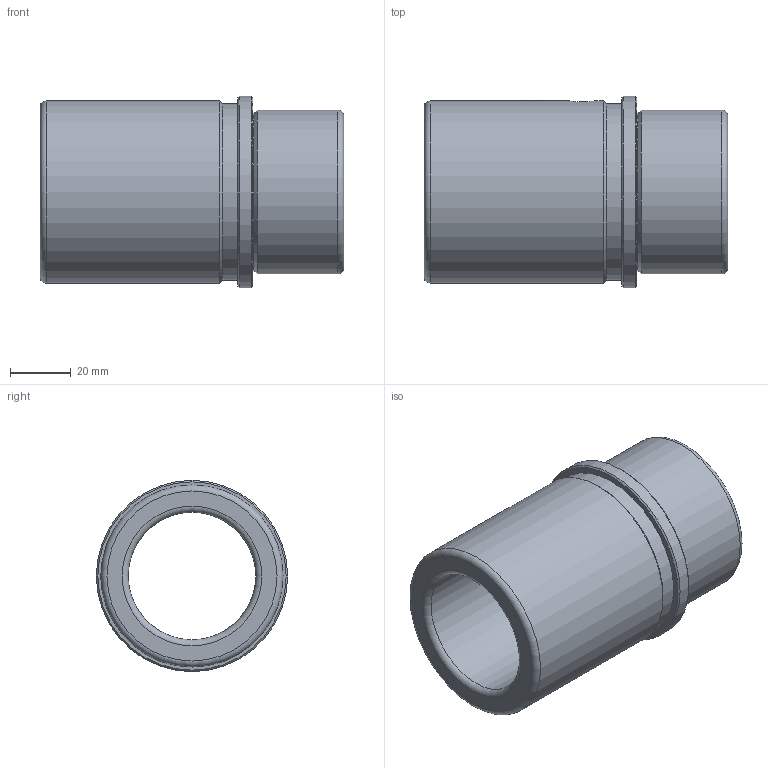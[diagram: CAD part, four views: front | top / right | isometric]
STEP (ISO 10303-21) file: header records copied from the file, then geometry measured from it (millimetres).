
FILE_DESCRIPTION( ( 'STEP AP214' ), '1' );
FILE_NAME( 'p:/temp/worker_24/temp/exporttempdir_2948_368_beL3T/format_2/WZ - 4055 42 x 100.stp', '2020-12-04T19:47:26', ( 'License CC BY-ND 4.0' ), ( 'CADENAS' ), ' ', 'PARTsolutions', ' ' );
FILE_SCHEMA( ( 'AUTOMOTIVE_DESIGN { 1 0 10303 214 1 1 1 1 }' ) );
Length unit declared in the file: millimetre
Products named in the file (1): _WZ - 4055 42 x 100
Bounding box: 100 x 63 x 63 mm (x, y, z)
Volume: 126954.1 mm3; surface area: 35160.2 mm2
Topology: 1 solids, 1 shells, 21 faces, 38 edges, 22 vertices
Faces by surface type: cylinder 7, cone 5, plane 5, torus 4
Full cylindrical faces by diameter (mm): 8.376 x1, 42 x1, 52 x1, 54 x1, 58 x1, 60 x1, 63 x1
Entity records: 750 total; most frequent: CARTESIAN_POINT 196, DIRECTION 84, EDGE_LOOP 44, ORIENTED_EDGE 44, AXIS2_PLACEMENT_3D 42, FACE_OUTER_BOUND 32, EDGE_CURVE 22, VERTEX_POINT 22
